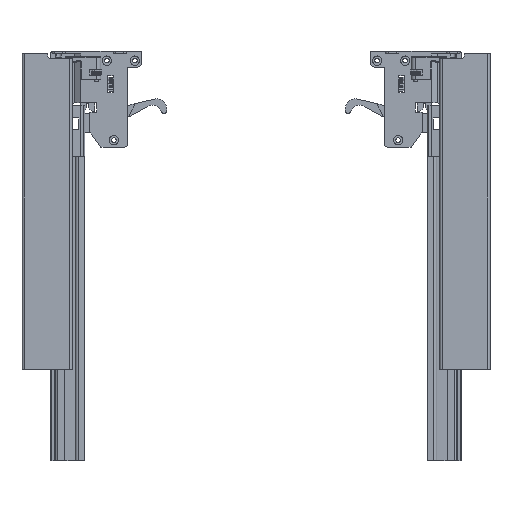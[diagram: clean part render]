
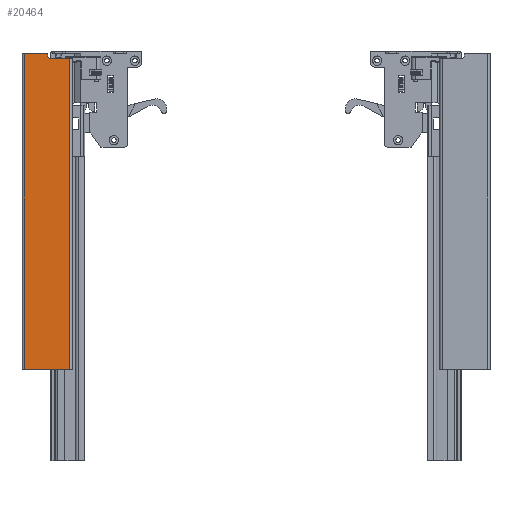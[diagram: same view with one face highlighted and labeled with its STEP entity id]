
A CAD part, front view. The second image highlights one B-rep face of the part: STEP entity #20464.
In plain terms, the highlighted planar face has unit normal (0, -1, 0).
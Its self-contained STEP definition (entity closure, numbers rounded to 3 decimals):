
#327=PLANE('',#21705);
#934=FACE_OUTER_BOUND('',#1974,.T.);
#1974=EDGE_LOOP('',(#13143,#13144,#13145,#13146,#13147,#13148,#13149));
#3174=LINE('',#29682,#5216);
#3182=LINE('',#29705,#5224);
#3189=LINE('',#29722,#5231);
#3190=LINE('',#29726,#5232);
#3191=LINE('',#29728,#5233);
#3192=LINE('',#29729,#5234);
#5216=VECTOR('',#23682,10.);
#5224=VECTOR('',#23700,10.);
#5231=VECTOR('',#23717,10.);
#5232=VECTOR('',#23722,10.);
#5233=VECTOR('',#23723,10.);
#5234=VECTOR('',#23724,10.);
#7256=CIRCLE('',#21692,1.85);
#8173=VERTEX_POINT('',#29673);
#8174=VERTEX_POINT('',#29675);
#8176=VERTEX_POINT('',#29681);
#8186=VERTEX_POINT('',#29703);
#8191=VERTEX_POINT('',#29721);
#8192=VERTEX_POINT('',#29725);
#8193=VERTEX_POINT('',#29727);
#10145=EDGE_CURVE('',#8174,#8173,#7256,.T.);
#10148=EDGE_CURVE('',#8176,#8174,#3174,.T.);
#10160=EDGE_CURVE('',#8173,#8186,#3182,.T.);
#10168=EDGE_CURVE('',#8176,#8191,#3189,.T.);
#10170=EDGE_CURVE('',#8192,#8186,#3190,.T.);
#10171=EDGE_CURVE('',#8192,#8193,#3191,.T.);
#10172=EDGE_CURVE('',#8191,#8193,#3192,.T.);
#13143=ORIENTED_EDGE('',*,*,#10148,.T.);
#13144=ORIENTED_EDGE('',*,*,#10145,.T.);
#13145=ORIENTED_EDGE('',*,*,#10160,.T.);
#13146=ORIENTED_EDGE('',*,*,#10170,.F.);
#13147=ORIENTED_EDGE('',*,*,#10171,.T.);
#13148=ORIENTED_EDGE('',*,*,#10172,.F.);
#13149=ORIENTED_EDGE('',*,*,#10168,.F.);
#20464=ADVANCED_FACE('',(#934),#327,.T.);
#21692=AXIS2_PLACEMENT_3D('',#29676,#23676,#23677);
#21705=AXIS2_PLACEMENT_3D('',#29724,#23720,#23721);
#23676=DIRECTION('center_axis',(0.,1.,0.));
#23677=DIRECTION('ref_axis',(0.,0.,1.));
#23682=DIRECTION('',(-1.,0.,0.));
#23700=DIRECTION('',(0.,0.,1.));
#23717=DIRECTION('',(0.,0.,-1.));
#23720=DIRECTION('center_axis',(0.,-1.,0.));
#23721=DIRECTION('ref_axis',(-1.,0.,0.));
#23722=DIRECTION('',(1.,0.,0.));
#23723=DIRECTION('',(0.,0.,-1.));
#23724=DIRECTION('',(-1.,0.,0.));
#29673=CARTESIAN_POINT('',(22.,0.,-2.15));
#29675=CARTESIAN_POINT('',(23.85,0.,-4.));
#29676=CARTESIAN_POINT('Origin',(23.85,0.,-2.15));
#29681=CARTESIAN_POINT('',(41.,0.,-4.));
#29682=CARTESIAN_POINT('',(32.425,0.,-4.));
#29703=CARTESIAN_POINT('',(22.,0.,0.));
#29705=CARTESIAN_POINT('',(22.,0.,67.5));
#29721=CARTESIAN_POINT('',(41.,0.,-270.));
#29722=CARTESIAN_POINT('',(41.,0.,0.));
#29724=CARTESIAN_POINT('Origin',(41.,0.,0.));
#29725=CARTESIAN_POINT('',(2.,0.,0.));
#29726=CARTESIAN_POINT('',(2.,0.,0.));
#29727=CARTESIAN_POINT('',(2.,0.,-270.));
#29728=CARTESIAN_POINT('',(2.,0.,0.));
#29729=CARTESIAN_POINT('',(2.,0.,-270.));
